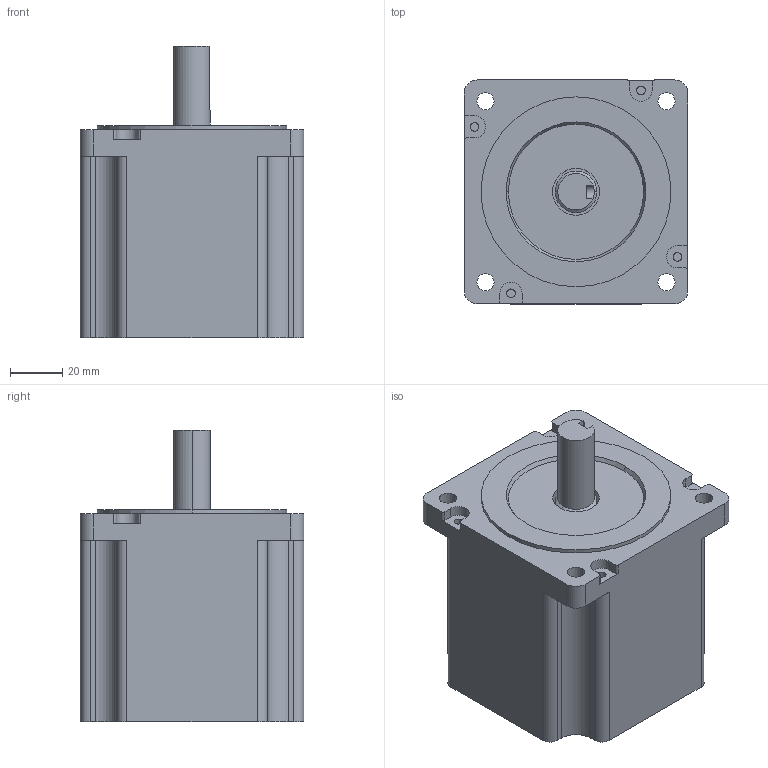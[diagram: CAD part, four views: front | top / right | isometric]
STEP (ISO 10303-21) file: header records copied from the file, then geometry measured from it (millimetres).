
FILE_DESCRIPTION((''),'2;1');
FILE_NAME('QL86HB80-04A-14','2022-07-02T17:29:43',('qingl'),(''),'CREO PARAMETRIC BY PTC INC, 2019224','CREO PARAMETRIC BY PTC INC, 2019224','');
FILE_SCHEMA(('CONFIG_CONTROL_DESIGN'));
Length unit declared in the file: millimetre
Products named in the file (1): QL86HB80-04A-14
Bounding box: 86 x 86 x 112 mm (x, y, z)
Volume: 538144.1 mm3; surface area: 46385.3 mm2
Topology: 1 solids, 7 shells, 250 faces, 690 edges, 462 vertices
Faces by surface type: cylinder 185, plane 53, bspline 8, cone 4
Entity records: 12802 total; most frequent: CARTESIAN_POINT 6789, ORIENTED_EDGE 1380, DIRECTION 1043, EDGE_CURVE 690, VERTEX_POINT 462, AXIS2_PLACEMENT_3D 385, B_SPLINE_CURVE_WITH_KNOTS 274, VECTOR 273
